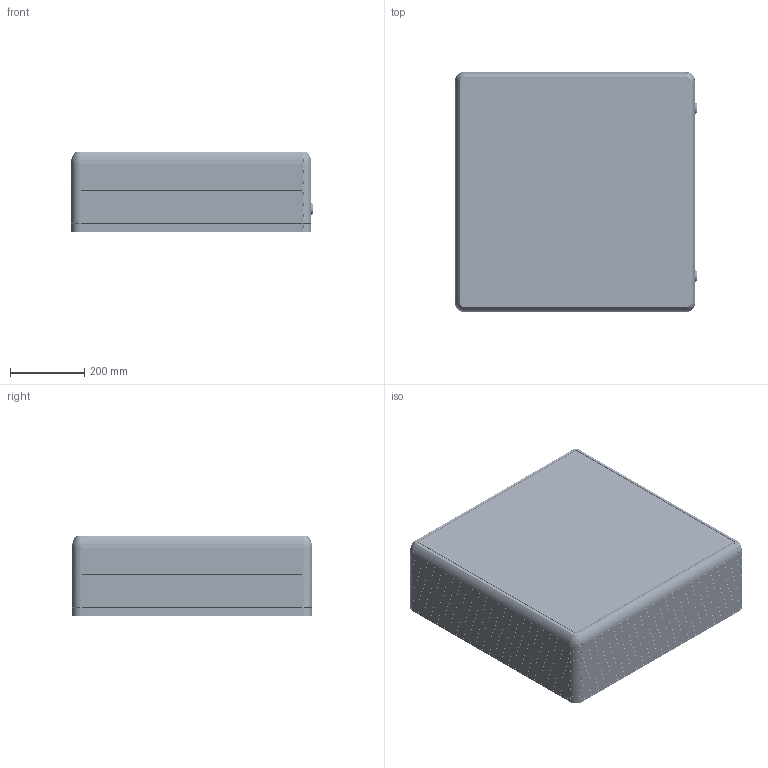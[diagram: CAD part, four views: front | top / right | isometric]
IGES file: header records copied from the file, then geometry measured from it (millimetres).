
Start section: SolidWorks IGES file using analytic representation for surfaces
Global section: file name: D:\PANO_STEP\1290\1290 datalar\1290-0017.IGS; native system: SolidWorks 2022; preprocessor: SolidWorks 2022; author: User; date: 220421.172728; units: millimetre
Bounding box: 651.78 x 647 x 216.87 mm (x, y, z)
Surface area: 3356462.4 mm2 (no closed solid volume)
Topology: 0 solids, 0 shells, 9090 faces, 75434 edges, 75242 vertices
Faces by surface type: bspline 6128, revolution 2962
